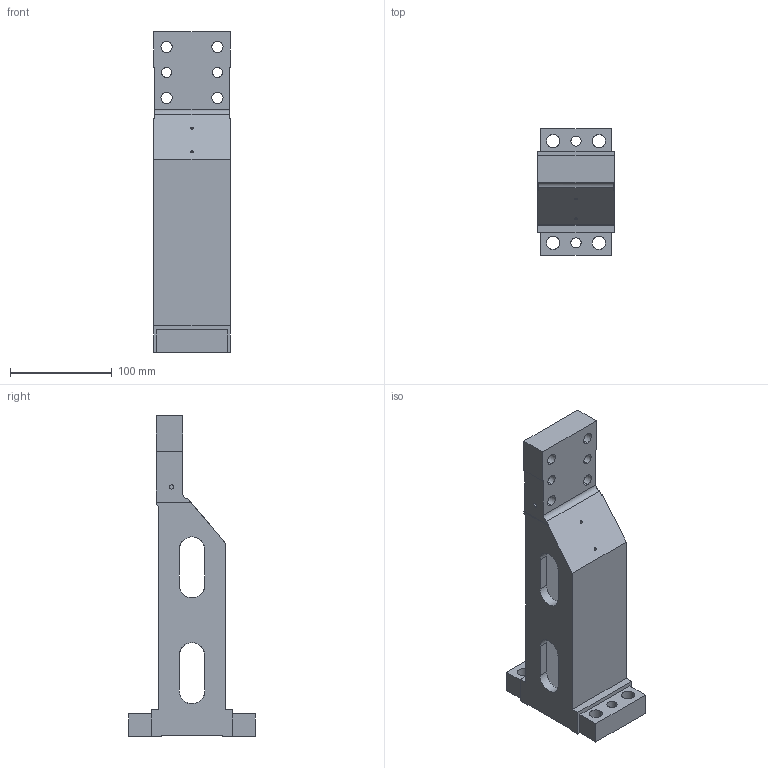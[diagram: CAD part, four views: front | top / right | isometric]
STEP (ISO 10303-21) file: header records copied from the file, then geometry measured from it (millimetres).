
FILE_DESCRIPTION (( 'STEP AP203' ), '1' );
FILE_NAME ('Clampact_KLP-EU-652-H250.STEP', '2023-07-16T13:17:31', ( '' ), ( '' ), 'SwSTEP 2.0', 'SolidWorks 2018', '' );
FILE_SCHEMA (( 'CONFIG_CONTROL_DESIGN' ));
Length unit declared in the file: millimetre
Products named in the file (1): Clampact_KLP-EU-652-H250
Bounding box: 75 x 124 x 315 mm (x, y, z)
Volume: 670549.3 mm3; surface area: 145632.8 mm2
Topology: 1 solids, 1 shells, 400 faces, 1107 edges, 740 vertices
Faces by surface type: plane 214, bspline 145, cylinder 41
Entity records: 20776 total; most frequent: CARTESIAN_POINT 11421, ORIENTED_EDGE 2214, DIRECTION 1340, EDGE_CURVE 1107, VERTEX_POINT 740, LINE 724, VECTOR 724, EDGE_LOOP 467
